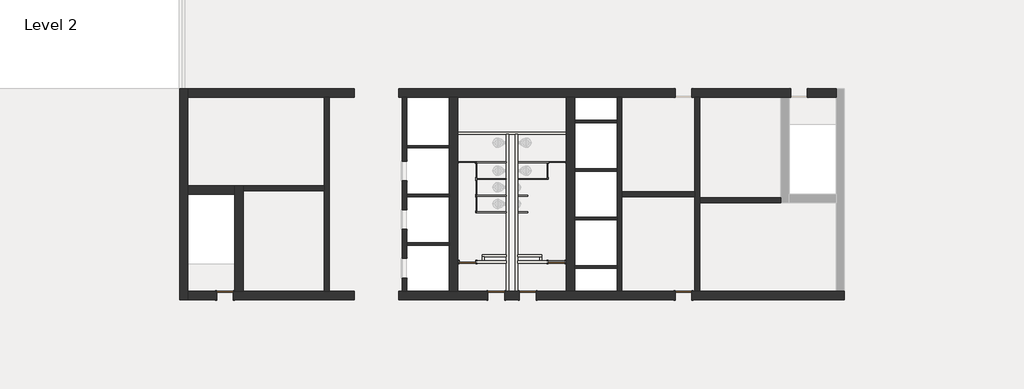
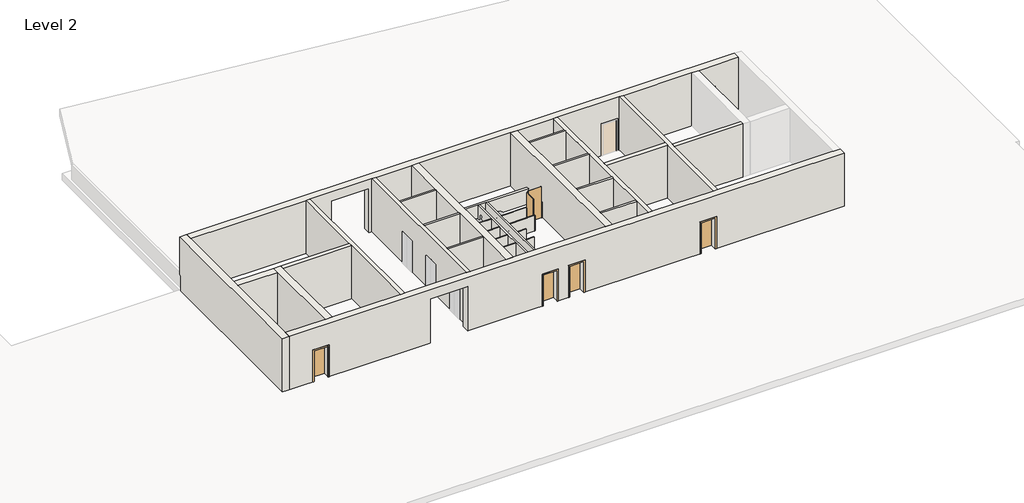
# One storey, part 1 of 6: 41 walls, 12 doors.
"""IFC4 building model written with IfcOpenShell, lengths in millimetres."""

from ifc_helpers import new_model, si_unit, frame, origin, place, context, project, spatial, polyline, outline, extrude, faceted_brep, transform, mapped, element, save
from components import door_3c99239a, door_aec9db07, door_a3eb833a, door_a1797ceb, toilet_partitions_2_10_0724d611, toilet_partitions_2_10_251e7a51, door_243abaaa, door_871a7840

model = new_model("IFC4")

# Units and contexts
model_context = context("Model", 3, world=origin())
ifc_project = project(units=[si_unit("LENGTHUNIT", "METRE", prefix="MILLI")], contexts=[model_context])

# Site, building, storey
site = spatial("IfcSite", under=ifc_project)
building = spatial("IfcBuilding", under=site)
storey = spatial("IfcBuildingStorey", under=building, Name="Level 2", Elevation=3657.6)

# Doors
placement = place(None, origin())
door_shape = door_3c99239a(model_context)
element("IfcDoor", 1, ObjectType="Single-Flush : 36\" x 84\"", at=placement, inside=storey, context=model_context, shape_type="MappedRepresentation", body=[
    mapped(door_shape, transform((-30700.0713641, -14594.8103492, 3657.6), x_axis=(1.0, 0.0, 0.0), y_axis=(0.0, 1.0, 0.0), z_axis=(0.0, 0.0, 1.0))),
])
element("IfcDoor", 2, ObjectType="Single-Flush : 36\" x 84\"", at=placement, inside=storey, context=model_context, shape_type="MappedRepresentation", body=[
    mapped(door_shape, transform((-5525.0427926, -14594.8103492, 3657.6), x_axis=(1.0, 0.0, 0.0), y_axis=(0.0, 1.0, 0.0), z_axis=(0.0, 0.0, 1.0))),
])
element("IfcDoor", 3, ObjectType="Single-Flush : 36\" x 84\"", at=placement, inside=storey, context=model_context, shape_type="MappedRepresentation", body=[
    mapped(door_shape, transform((-15804.7856498, -14594.8103492, 3657.6), x_axis=(1.0, 0.0, 0.0), y_axis=(0.0, 1.0, 0.0), z_axis=(0.0, 0.0, 1.0))),
])
door_2_shape = door_aec9db07(model_context)
element("IfcDoor", 4, ObjectType="Single-Flush : 36\" x 84\"", at=placement, inside=storey, context=model_context, shape_type="MappedRepresentation", body=[
    mapped(door_2_shape, transform((-14077.5856498, -14594.8103492, 3657.6), x_axis=(-1.0, 0.0, 0.0), y_axis=(0.0, -1.0, 0.0), z_axis=(0.0, 0.0, 1.0))),
])
door_3_shape = door_a3eb833a(model_context)
element("IfcDoor", 5, ObjectType="Single-Flush : 36\" x 84\"", at=placement, inside=storey, context=model_context, shape_type="MappedRepresentation", body=[
    mapped(door_3_shape, transform((-12487.8428559, -12753.3103492, 3657.6), x_axis=(1.0, 0.0, 0.0), y_axis=(0.0, 1.0, 0.0), z_axis=(0.0, 0.0, 1.0))),
])
door_4_shape = door_a1797ceb(model_context)
element("IfcDoor", 6, ObjectType="Single-Flush : 36\" x 84\"", at=placement, inside=storey, context=model_context, shape_type="MappedRepresentation", body=[
    mapped(door_4_shape, transform((-17394.5284437, -12753.3103492, 3657.6), x_axis=(-1.0, 0.0, 0.0), y_axis=(0.0, -1.0, 0.0), z_axis=(0.0, 0.0, 1.0))),
])
toilet_partitions_2_10_shape = toilet_partitions_2_10_0724d611(model_context)
element("IfcDoor", 7, ObjectType="toilet Partitions : 2'10", at=placement, inside=storey, context=model_context, shape_type="MappedRepresentation", body=[
    mapped(toilet_partitions_2_10_shape, transform((-12449.7428559, -7282.7853492, 3657.6), x_axis=(1.0, 0.0, 0.0), y_axis=(0.0, 1.0, 0.0), z_axis=(0.0, 0.0, 1.0))),
])
toilet_partitions_2_10_2_shape = toilet_partitions_2_10_251e7a51(model_context)
element("IfcDoor", 8, ObjectType="toilet Partitions : 2'10", at=placement, inside=storey, context=model_context, shape_type="MappedRepresentation", body=[
    mapped(toilet_partitions_2_10_2_shape, transform((-17432.6284437, -7282.7853492, 3657.6), x_axis=(-1.0, 0.0, 0.0), y_axis=(0.0, -1.0, 0.0), z_axis=(0.0, 0.0, 1.0))),
])
door_5_shape = door_243abaaa(model_context)
element("IfcDoor", 9, ObjectType="toilet Partitions : 2'5\"", at=placement, inside=storey, context=model_context, shape_type="MappedRepresentation", body=[
    mapped(door_5_shape, transform((-12985.3856498, -7739.9853492, 3657.6), x_axis=(0.0, -1.0, 0.0), y_axis=(1.0, 0.0, 0.0), z_axis=(0.0, 0.0, 1.0))),
])
door_6_shape = door_871a7840(model_context)
element("IfcDoor", 10, ObjectType="toilet Partitions : 2'5\"", at=placement, inside=storey, context=model_context, shape_type="MappedRepresentation", body=[
    mapped(door_6_shape, transform((-16896.9856498, -9568.7853492, 3657.6), x_axis=(0.0, -1.0, 0.0), y_axis=(1.0, 0.0, 0.0), z_axis=(0.0, 0.0, 1.0))),
])
element("IfcDoor", 11, ObjectType="toilet Partitions : 2'5\"", at=placement, inside=storey, context=model_context, shape_type="MappedRepresentation", body=[
    mapped(door_6_shape, transform((-16896.9856498, -7739.9853492, 3657.6), x_axis=(0.0, -1.0, 0.0), y_axis=(1.0, 0.0, 0.0), z_axis=(0.0, 0.0, 1.0))),
])
element("IfcDoor", 12, ObjectType="toilet Partitions : 2'5\"", at=placement, inside=storey, context=model_context, shape_type="MappedRepresentation", body=[
    mapped(door_6_shape, transform((-16896.9856498, -8654.3853492, 3657.6), x_axis=(0.0, -1.0, 0.0), y_axis=(1.0, 0.0, 0.0), z_axis=(0.0, 0.0, 1.0))),
])

# Walls
element("IfcWall", 13, ObjectType="Core-shaft 10\" Concrete", at=placement, inside=storey, context=model_context, shape_type="SweptSolid", body=[
    extrude(outline(polyline([(-14366.2103492, 7315.2), (-3698.2103492, 7315.2), (-3698.2103492, 3657.6), (-7222.4603492, 3657.6), (-7222.4603492, 5816.6), (-8301.9603492, 5816.6), (-8301.9603492, 3657.6), (-9889.4603492, 3657.6), (-9889.4603492, 5816.6), (-10968.9603492, 5816.6), (-10968.9603492, 3657.6), (-12556.4603492, 3657.6), (-12556.4603492, 5816.6), (-13635.9603492, 5816.6), (-13635.9603492, 3657.6), (-14366.2103492, 3657.6), (-14366.2103492, 7315.2)])), frame((-20979.1285069, 0.0, 0.0), z_axis=(1.0, 0.0, 0.0), x_axis=(0.0, 1.0, 0.0)), (0.0, 0.0, 1.0), 254.0),
])
element("IfcWall", 14, ObjectType="Core-shaft 10\" Concrete", at=placement, inside=storey, context=model_context, shape_type="Brep", body=[
    faceted_brep([(-24992.3285069, -14366.2103492, 3657.6), (-24992.3285069, -3698.2103492, 3657.6), (-24992.3285069, -3698.2103492, 7315.2), (-24992.3285069, -14366.2103492, 7315.2), (-25246.3285069, -14366.2103492, 3657.6), (-25246.3285069, -14366.2103492, 7315.2), (-25246.3285069, -8829.0103492, 7315.2), (-25246.3285069, -8575.0103492, 7315.2), (-25246.3285069, -3698.2103492, 7315.2), (-25246.3285069, -3698.2103492, 3657.6), (-25246.3285069, -8575.0103492, 3657.6), (-25246.3285069, -8829.0103492, 3657.6)], [[[0, 1, 2, 3]], [[4, 5, 6, 7, 8, 9, 10, 11]], [[1, 0, 4, 11, 10, 9]], [[3, 2, 8, 7, 6, 5]], [[0, 3, 5, 4]], [[2, 1, 9, 8]]]),
])
element("IfcWall", 15, ObjectType="Core-shaft 10\" Concrete", at=placement, inside=storey, context=model_context, shape_type="SweptSolid", body=[
    extrude(outline(polyline([(-25246.3285069, -8829.0103492), (-29709.4713641, -8829.0103492), (-29709.4713641, -8575.0103492), (-25246.3285069, -8575.0103492), (-25246.3285069, -8829.0103492)])), frame((0.0, 0.0, 3657.6), z_axis=(0.0, 0.0, 1.0), x_axis=(1.0, 0.0, 0.0)), (0.0, 0.0, 1.0), 3657.6),
])
element("IfcWall", 16, ObjectType="Core-shaft 10\" Concrete", at=placement, inside=storey, context=model_context, shape_type="SweptSolid", body=[
    extrude(outline(polyline([(-8903.2427926, -3698.2103492), (-8903.2427926, -14366.2103492), (-9157.2427926, -14366.2103492), (-9157.2427926, -3698.2103492), (-8903.2427926, -3698.2103492)])), frame((0.0, 0.0, 3657.6), z_axis=(0.0, 0.0, 1.0), x_axis=(1.0, 0.0, 0.0)), (0.0, 0.0, 1.0), 3657.6),
])
element("IfcWall", 17, ObjectType="Core-shaft 10\" Concrete", at=placement, inside=storey, context=model_context, shape_type="Brep", body=[
    faceted_brep([(-4636.0427926, -14366.2103492, 3657.6), (-4636.0427926, -9489.4103492, 3657.6), (-4636.0427926, -9235.4103492, 3657.6), (-4636.0427926, -3698.2103492, 3657.6), (-4636.0427926, -3698.2103492, 7315.2), (-4636.0427926, -9235.4103492, 7315.2), (-4636.0427926, -9489.4103492, 7315.2), (-4636.0427926, -14366.2103492, 7315.2), (-4890.0427926, -14366.2103492, 3657.6), (-4890.0427926, -14366.2103492, 7315.2), (-4890.0427926, -3698.2103492, 7315.2), (-4890.0427926, -3698.2103492, 3657.6)], [[[0, 1, 2, 3, 4, 5, 6, 7]], [[8, 9, 10, 11]], [[3, 2, 1, 0, 8, 11]], [[7, 6, 5, 4, 10, 9]], [[0, 7, 9, 8]], [[4, 3, 11, 10]]]),
])
element("IfcWall", 18, ObjectType="Core-shaft 10\" Concrete", at=placement, inside=storey, context=model_context, shape_type="SweptSolid", body=[
    extrude(outline(polyline([(-4636.0427926, -9235.4103492), (-172.8999355, -9235.4103492), (-172.8999355, -9489.4103492), (-4636.0427926, -9489.4103492), (-4636.0427926, -9235.4103492)])), frame((0.0, 0.0, 3657.6), z_axis=(0.0, 0.0, 1.0), x_axis=(1.0, 0.0, 0.0)), (0.0, 0.0, 1.0), 3657.6),
])
element("IfcWall", 19, ObjectType="Core-shaft 10\" Concrete", at=placement, inside=storey, context=model_context, shape_type="SweptSolid", body=[
    extrude(outline(polyline([(-8903.2427926, -8905.2103492), (-4890.0427926, -8905.2103492), (-4890.0427926, -9159.2103492), (-8903.2427926, -9159.2103492), (-8903.2427926, -8905.2103492)])), frame((0.0, 0.0, 3657.6), z_axis=(0.0, 0.0, 1.0), x_axis=(1.0, 0.0, 0.0)), (0.0, 0.0, 1.0), 3657.6),
])
element("IfcWall", 20, ObjectType="Core-shaft 18\" Concrete", at=placement, inside=storey, context=model_context, shape_type="Brep", body=[
    faceted_brep([(-14534.7856498, -14366.2103492, 5791.2), (-14534.7856498, -14366.2103492, 3657.6), (-15347.5856498, -14366.2103492, 3657.6), (-15347.5856498, -14366.2103492, 5791.2), (-16261.9856498, -14366.2103492, 5791.2), (-16261.9856498, -14366.2103492, 3657.6), (-17927.9284437, -14366.2103492, 3657.6), (-18385.1284437, -14366.2103492, 3657.6), (-20725.1285069, -14366.2103492, 3657.6), (-20979.1285069, -14366.2103492, 3657.6), (-21167.8142212, -14366.2103492, 3657.6), (-21167.8142212, -14366.2103492, 6705.6), (-23606.2142212, -14366.2103492, 6705.6), (-23606.2142212, -14366.2103492, 3657.6), (-24992.3285069, -14366.2103492, 3657.6), (-25246.3285069, -14366.2103492, 3657.6), (-29709.4713641, -14366.2103492, 3657.6), (-30166.6713641, -14366.2103492, 3657.6), (-30242.8713641, -14366.2103492, 3657.6), (-30242.8713641, -14366.2103492, 5791.2), (-31157.2713641, -14366.2103492, 5791.2), (-31157.2713641, -14366.2103492, 3657.6), (-32750.2142212, -14366.2103492, 3657.6), (-32750.2142212, -14366.2103492, 7315.2), (-30166.6713641, -14366.2103492, 7315.2), (-29709.4713641, -14366.2103492, 7315.2), (-25246.3285069, -14366.2103492, 7315.2), (-24992.3285069, -14366.2103492, 7315.2), (-20979.1285069, -14366.2103492, 7315.2), (-20725.1285069, -14366.2103492, 7315.2), (-18385.1284437, -14366.2103492, 7315.2), (-17927.9284437, -14366.2103492, 7315.2), (-11954.4428559, -14366.2103492, 7315.2), (-11497.2428559, -14366.2103492, 7315.2), (-9157.2427926, -14366.2103492, 7315.2), (-8903.2427926, -14366.2103492, 7315.2), (-4890.0427926, -14366.2103492, 7315.2), (-4636.0427926, -14366.2103492, 7315.2), (2867.8429217, -14366.2103492, 7315.2), (3325.0429217, -14366.2103492, 7315.2), (3325.0429217, -14366.2103492, 3657.6), (2867.8429217, -14366.2103492, 3657.6), (-4636.0427926, -14366.2103492, 3657.6), (-4890.0427926, -14366.2103492, 3657.6), (-5067.8427926, -14366.2103492, 3657.6), (-5067.8427926, -14366.2103492, 5791.2), (-5982.2427926, -14366.2103492, 5791.2), (-5982.2427926, -14366.2103492, 3657.6), (-8903.2427926, -14366.2103492, 3657.6), (-9157.2427926, -14366.2103492, 3657.6), (-11497.2428559, -14366.2103492, 3657.6), (-11954.4428559, -14366.2103492, 3657.6), (-13620.3856498, -14366.2103492, 3657.6), (-13620.3856498, -14366.2103492, 5791.2), (-15347.5856498, -14823.4103492, 3657.6), (-14534.7856498, -14823.4103492, 3657.6), (-14534.7856498, -14823.4103492, 5791.2), (-13620.3856498, -14823.4103492, 5791.2), (-13620.3856498, -14823.4103492, 3657.6), (-5982.2427926, -14823.4103492, 3657.6), (-5982.2427926, -14823.4103492, 5791.2), (-5067.8427926, -14823.4103492, 5791.2), (-5067.8427926, -14823.4103492, 3657.6), (3325.0429217, -14823.4103492, 3657.6), (3325.0429217, -14823.4103492, 7315.2), (-32750.2142212, -14823.4103492, 7315.2), (-32750.2142212, -14823.4103492, 3657.6), (-31157.2713641, -14823.4103492, 3657.6), (-31157.2713641, -14823.4103492, 5791.2), (-30242.8713641, -14823.4103492, 5791.2), (-30242.8713641, -14823.4103492, 3657.6), (-23606.2142212, -14823.4103492, 3657.6), (-23606.2142212, -14823.4103492, 6705.6), (-21167.8142212, -14823.4103492, 6705.6), (-21167.8142212, -14823.4103492, 3657.6), (-16261.9856498, -14823.4103492, 3657.6), (-16261.9856498, -14823.4103492, 5791.2), (-15347.5856498, -14823.4103492, 5791.2)], [[[0, 1, 2, 3, 4, 5, 6, 7, 8, 9, 10, 11, 12, 13, 14, 15, 16, 17, 18, 19, 20, 21, 22, 23, 24, 25, 26, 27, 28, 29, 30, 31, 32, 33, 34, 35, 36, 37, 38, 39, 40, 41, 42, 43, 44, 45, 46, 47, 48, 49, 50, 51, 52, 53]], [[54, 55, 56, 57, 58, 59, 60, 61, 62, 63, 64, 65, 66, 67, 68, 69, 70, 71, 72, 73, 74, 75, 76, 77]], [[67, 66, 22, 21]], [[71, 70, 18, 17, 16, 15, 14, 13]], [[63, 62, 44, 43, 42, 41, 40]], [[75, 74, 10, 9, 8, 7, 6, 5]], [[2, 1, 55, 54]], [[52, 51, 50, 49, 48, 47, 59, 58]], [[39, 38, 37, 36, 35, 34, 33, 32, 31, 30, 29, 28, 27, 26, 25, 24, 23, 65, 64]], [[11, 73, 72, 12]], [[73, 11, 10, 74]], [[12, 72, 71, 13]], [[19, 18, 70, 69]], [[20, 19, 69, 68]], [[21, 20, 68, 67]], [[45, 44, 62, 61]], [[46, 45, 61, 60]], [[47, 46, 60, 59]], [[40, 39, 64, 63]], [[23, 22, 66, 65]], [[3, 2, 54, 77]], [[4, 3, 77, 76]], [[5, 4, 76, 75]], [[56, 55, 1, 0]], [[57, 56, 0, 53]], [[58, 57, 53, 52]]]),
])
element("IfcWall", 21, ObjectType="Core-shaft 18\" Concrete", at=placement, inside=storey, context=model_context, shape_type="Brep", body=[
    faceted_brep([(-32750.2142212, -14823.4103492, 3657.6), (-32750.2142212, -14366.2103492, 3657.6), (-32750.2142212, -9032.2103492, 3657.6), (-32750.2142212, -8575.0103492, 3657.6), (-32750.2142212, -3698.2103492, 3657.6), (-32750.2142212, -3393.4103492, 3657.6), (-32750.2142212, -3393.4103492, 4724.4), (-32750.2142212, -3241.0103492, 4724.4), (-32750.2142212, -3241.0103492, 7315.2), (-32750.2142212, -3698.2103492, 7315.2), (-32750.2142212, -8575.0103492, 7315.2), (-32750.2142212, -9032.2103492, 7315.2), (-32750.2142212, -14366.2103492, 7315.2), (-32750.2142212, -14823.4103492, 7315.2), (-33207.4142212, -14823.4103492, 3657.6), (-33207.4142212, -14823.4103492, 7315.2), (-33207.4142212, -3241.0103492, 7315.2), (-33207.4142212, -3241.0103492, 4724.4), (-33207.4142212, -3393.4103492, 4724.4), (-33207.4142212, -3393.4103492, 3657.6), (-33207.4142212, -3698.2103492, 3657.6)], [[[0, 1, 2, 3, 4, 5, 6, 7, 8, 9, 10, 11, 12, 13]], [[14, 15, 16, 17, 18, 19, 20]], [[5, 4, 3, 2, 1, 0, 14, 20, 19]], [[13, 12, 11, 10, 9, 8, 16, 15]], [[0, 13, 15, 14]], [[6, 5, 19, 18]], [[17, 7, 6, 18]], [[8, 7, 17, 16]]]),
])
element("IfcWall", 22, ObjectType="Core-shaft 18\" Concrete", at=placement, inside=storey, context=model_context, shape_type="SweptSolid", body=[
    extrude(outline(polyline([(-18385.1284437, -14366.2103492), (-18385.1284437, -3698.2103492), (-17927.9284437, -3698.2103492), (-17927.9284437, -14366.2103492), (-18385.1284437, -14366.2103492)])), frame((0.0, 0.0, 3657.6), z_axis=(0.0, 0.0, 1.0), x_axis=(1.0, 0.0, 0.0)), (0.0, 0.0, 1.0), 3657.6),
])
element("IfcWall", 23, ObjectType="Core-shaft 18\" Concrete", at=placement, inside=storey, context=model_context, shape_type="Brep", body=[
    faceted_brep([(-29709.4713641, -14366.2103492, 3657.6), (-29709.4713641, -8829.0103492, 3657.6), (-29709.4713641, -8575.0103492, 3657.6), (-29709.4713641, -8575.0103492, 7315.2), (-29709.4713641, -8829.0103492, 7315.2), (-29709.4713641, -14366.2103492, 7315.2), (-30166.6713641, -14366.2103492, 3657.6), (-30166.6713641, -14366.2103492, 7315.2), (-30166.6713641, -9032.2103492, 7315.2), (-30166.6713641, -8575.0103492, 7315.2), (-30166.6713641, -8575.0103492, 3657.6), (-30166.6713641, -9032.2103492, 3657.6)], [[[0, 1, 2, 3, 4, 5]], [[6, 7, 8, 9, 10, 11]], [[2, 1, 0, 6, 11, 10]], [[5, 4, 3, 9, 8, 7]], [[3, 2, 10, 9]], [[0, 5, 7, 6]]]),
])
element("IfcWall", 24, ObjectType="Core-shaft 18\" Concrete", at=placement, inside=storey, context=model_context, shape_type="SweptSolid", body=[
    extrude(outline(polyline([(-32750.2142212, -8575.0103492), (-30166.6713641, -8575.0103492), (-30166.6713641, -9032.2103492), (-32750.2142212, -9032.2103492), (-32750.2142212, -8575.0103492)])), frame((0.0, 0.0, 3657.6), z_axis=(0.0, 0.0, 1.0), x_axis=(1.0, 0.0, 0.0)), (0.0, 0.0, 1.0), 3657.6),
])
element("IfcWall", 25, ObjectType="Core-shaft 18\" Concrete", at=placement, inside=storey, context=model_context, shape_type="SweptSolid", body=[
    extrude(outline(polyline([(-11954.4428559, -14366.2103492), (-11954.4428559, -3698.2103492), (-11497.2428559, -3698.2103492), (-11497.2428559, -14366.2103492), (-11954.4428559, -14366.2103492)])), frame((0.0, 0.0, 3657.6), z_axis=(0.0, 0.0, 1.0), x_axis=(1.0, 0.0, 0.0)), (0.0, 0.0, 1.0), 3657.6),
])
element("IfcWall", 26, ObjectType="Core-shaft 18\" Concrete", at=placement, inside=storey, context=model_context, shape_type="Brep", body=[
    faceted_brep([(-5067.8427926, -3698.2103492, 5791.2), (-5067.8427926, -3698.2103492, 3657.6), (-4890.0427926, -3698.2103492, 3657.6), (-4636.0427926, -3698.2103492, 3657.6), (-172.8999355, -3698.2103492, 3657.6), (284.3000645, -3698.2103492, 3657.6), (360.5000645, -3698.2103492, 3657.6), (360.5000645, -3698.2103492, 5791.2), (1274.9000645, -3698.2103492, 5791.2), (1274.9000645, -3698.2103492, 3657.6), (2867.8429217, -3698.2103492, 3657.6), (2867.8429217, -3698.2103492, 7315.2), (284.3000645, -3698.2103492, 7315.2), (-172.8999355, -3698.2103492, 7315.2), (-4636.0427926, -3698.2103492, 7315.2), (-4890.0427926, -3698.2103492, 7315.2), (-8903.2427926, -3698.2103492, 7315.2), (-9157.2427926, -3698.2103492, 7315.2), (-11497.2428559, -3698.2103492, 7315.2), (-11954.4428559, -3698.2103492, 7315.2), (-17927.9284437, -3698.2103492, 7315.2), (-18385.1284437, -3698.2103492, 7315.2), (-20725.1285069, -3698.2103492, 7315.2), (-20979.1285069, -3698.2103492, 7315.2), (-24992.3285069, -3698.2103492, 7315.2), (-25246.3285069, -3698.2103492, 7315.2), (-32750.2142212, -3698.2103492, 7315.2), (-32750.2142212, -3698.2103492, 3657.6), (-25246.3285069, -3698.2103492, 3657.6), (-24992.3285069, -3698.2103492, 3657.6), (-23606.2142212, -3698.2103492, 3657.6), (-23606.2142212, -3698.2103492, 6705.6), (-21167.8142212, -3698.2103492, 6705.6), (-21167.8142212, -3698.2103492, 3657.6), (-20979.1285069, -3698.2103492, 3657.6), (-20725.1285069, -3698.2103492, 3657.6), (-18385.1284437, -3698.2103492, 3657.6), (-17927.9284437, -3698.2103492, 3657.6), (-11954.4428559, -3698.2103492, 3657.6), (-11497.2428559, -3698.2103492, 3657.6), (-9157.2427926, -3698.2103492, 3657.6), (-8903.2427926, -3698.2103492, 3657.6), (-5982.2427926, -3698.2103492, 3657.6), (-5982.2427926, -3698.2103492, 5791.2), (360.5000645, -3241.0103492, 3657.6), (-5067.8427926, -3241.0103492, 3657.6), (-5067.8427926, -3241.0103492, 5791.2), (-5982.2427926, -3241.0103492, 5791.2), (-5982.2427926, -3241.0103492, 3657.6), (-21167.8142212, -3241.0103492, 3657.6), (-21167.8142212, -3241.0103492, 6705.6), (-23606.2142212, -3241.0103492, 6705.6), (-23606.2142212, -3241.0103492, 3657.6), (-32750.2142212, -3241.0103492, 3657.6), (-32750.2142212, -3241.0103492, 4724.4), (-32750.2142212, -3241.0103492, 7315.2), (2867.8429217, -3241.0103492, 7315.2), (2867.8429217, -3241.0103492, 3657.6), (1274.9000645, -3241.0103492, 3657.6), (1274.9000645, -3241.0103492, 5791.2), (360.5000645, -3241.0103492, 5791.2), (-32750.2142212, -3393.4103492, 3657.6)], [[[0, 1, 2, 3, 4, 5, 6, 7, 8, 9, 10, 11, 12, 13, 14, 15, 16, 17, 18, 19, 20, 21, 22, 23, 24, 25, 26, 27, 28, 29, 30, 31, 32, 33, 34, 35, 36, 37, 38, 39, 40, 41, 42, 43]], [[44, 45, 46, 47, 48, 49, 50, 51, 52, 53, 54, 55, 56, 57, 58, 59, 60]], [[58, 57, 10, 9]], [[27, 61, 53, 52, 30, 29, 28]], [[42, 41, 40, 39, 38, 37, 36, 35, 34, 33, 49, 48]], [[6, 5, 4, 3, 2, 1, 45, 44]], [[26, 25, 24, 23, 22, 21, 20, 19, 18, 17, 16, 15, 14, 13, 12, 11, 56, 55]], [[31, 51, 50, 32]], [[51, 31, 30, 52]], [[32, 50, 49, 33]], [[7, 6, 44, 60]], [[8, 7, 60, 59]], [[9, 8, 59, 58]], [[46, 45, 1, 0]], [[47, 46, 0, 43]], [[48, 47, 43, 42]], [[11, 10, 57, 56]], [[26, 55, 54, 53, 61, 27]]]),
])
element("IfcWall", 27, ObjectType="Generic - 5\"", at=placement, inside=storey, context=model_context, shape_type="SweptSolid", body=[
    extrude(outline(polyline([(-18385.1284437, -11826.2103492), (-20725.1285069, -11826.2103492), (-20725.1285069, -11699.2103492), (-18385.1284437, -11699.2103492), (-18385.1284437, -11826.2103492)])), frame((0.0, 0.0, 3657.6), z_axis=(0.0, 0.0, 1.0), x_axis=(1.0, 0.0, 0.0)), (0.0, 0.0, 1.0), 3657.6),
])
element("IfcWall", 28, ObjectType="Generic - 5\"", at=placement, inside=storey, context=model_context, shape_type="SweptSolid", body=[
    extrude(outline(polyline([(-18385.1284437, -9159.2103492), (-20725.1285069, -9159.2103492), (-20725.1285069, -9032.2103492), (-18385.1284437, -9032.2103492), (-18385.1284437, -9159.2103492)])), frame((0.0, 0.0, 3657.6), z_axis=(0.0, 0.0, 1.0), x_axis=(1.0, 0.0, 0.0)), (0.0, 0.0, 1.0), 3657.6),
])
element("IfcWall", 29, ObjectType="Generic - 5\"", at=placement, inside=storey, context=model_context, shape_type="SweptSolid", body=[
    extrude(outline(polyline([(-18385.1284437, -6492.2103492), (-20725.1285069, -6492.2103492), (-20725.1285069, -6365.2103492), (-18385.1284437, -6365.2103492), (-18385.1284437, -6492.2103492)])), frame((0.0, 0.0, 3657.6), z_axis=(0.0, 0.0, 1.0), x_axis=(1.0, 0.0, 0.0)), (0.0, 0.0, 1.0), 3657.6),
])
element("IfcWall", 30, ObjectType="Generic - 5\"", at=placement, inside=storey, context=model_context, shape_type="SweptSolid", body=[
    extrude(outline(polyline([(-11497.2428559, -10302.2103492), (-9157.2427926, -10302.2103492), (-9157.2427926, -10429.2103492), (-11497.2428559, -10429.2103492), (-11497.2428559, -10302.2103492)])), frame((0.0, 0.0, 3657.6), z_axis=(0.0, 0.0, 1.0), x_axis=(1.0, 0.0, 0.0)), (0.0, 0.0, 1.0), 3657.6),
])
element("IfcWall", 31, ObjectType="Generic - 5\"", at=placement, inside=storey, context=model_context, shape_type="SweptSolid", body=[
    extrude(outline(polyline([(-11497.2428559, -7635.2103492), (-9157.2427926, -7635.2103492), (-9157.2427926, -7762.2103492), (-11497.2428559, -7762.2103492), (-11497.2428559, -7635.2103492)])), frame((0.0, 0.0, 3657.6), z_axis=(0.0, 0.0, 1.0), x_axis=(1.0, 0.0, 0.0)), (0.0, 0.0, 1.0), 3657.6),
])
element("IfcWall", 32, ObjectType="Generic - 5\"", at=placement, inside=storey, context=model_context, shape_type="SweptSolid", body=[
    extrude(outline(polyline([(-11497.2428559, -4968.2103492), (-9157.2427926, -4968.2103492), (-9157.2427926, -5095.2103492), (-11497.2428559, -5095.2103492), (-11497.2428559, -4968.2103492)])), frame((0.0, 0.0, 3657.6), z_axis=(0.0, 0.0, 1.0), x_axis=(1.0, 0.0, 0.0)), (0.0, 0.0, 1.0), 3657.6),
])
element("IfcWall", 33, ObjectType="Generic - 5\"", at=placement, inside=storey, context=model_context, shape_type="SweptSolid", body=[
    extrude(outline(polyline([(-11497.2428559, -12969.2103492), (-9157.2427926, -12969.2103492), (-9157.2427926, -13096.2103492), (-11497.2428559, -13096.2103492), (-11497.2428559, -12969.2103492)])), frame((0.0, 0.0, 3657.6), z_axis=(0.0, 0.0, 1.0), x_axis=(1.0, 0.0, 0.0)), (0.0, 0.0, 1.0), 3657.6),
])
element("IfcWall", 34, ObjectType="Interior - Generic - 5\"", at=placement, inside=storey, context=model_context, shape_type="Brep", body=[
    faceted_brep([(-15131.6856498, -14366.2103492, 3657.6), (-15131.6856498, -5742.9103492, 3657.6), (-15131.6856498, -5742.9103492, 4724.4), (-15131.6856498, -14366.2103492, 4724.4), (-15258.6856498, -14366.2103492, 3657.6), (-15258.6856498, -14366.2103492, 4724.4), (-15258.6856498, -12816.8103492, 4724.4), (-15258.6856498, -12689.8103492, 4724.4), (-15258.6856498, -12480.2603492, 4724.4), (-15258.6856498, -12353.2603492, 4724.4), (-15258.6856498, -10051.3853492, 4724.4), (-15258.6856498, -10000.5853492, 4724.4), (-15258.6856498, -9136.9853492, 4724.4), (-15258.6856498, -9086.1853492, 4724.4), (-15258.6856498, -8222.5853492, 4724.4), (-15258.6856498, -8171.7853492, 4724.4), (-15258.6856498, -7308.1853492, 4724.4), (-15258.6856498, -7257.3853492, 4724.4), (-15258.6856498, -5742.9103492, 4724.4), (-15258.6856498, -5742.9103492, 3657.6), (-15258.6856498, -7257.3853492, 3657.6), (-15258.6856498, -7308.1853492, 3657.6), (-15258.6856498, -8171.7853492, 3657.6), (-15258.6856498, -8222.5853492, 3657.6), (-15258.6856498, -9086.1853492, 3657.6), (-15258.6856498, -9136.9853492, 3657.6), (-15258.6856498, -10000.5853492, 3657.6), (-15258.6856498, -10051.3853492, 3657.6), (-15258.6856498, -12353.2603492, 3657.6), (-15258.6856498, -12480.2603492, 3657.6), (-15258.6856498, -12689.8103492, 3657.6), (-15258.6856498, -12816.8103492, 3657.6)], [[[0, 1, 2, 3]], [[4, 5, 6, 7, 8, 9, 10, 11, 12, 13, 14, 15, 16, 17, 18, 19, 20, 21, 22, 23, 24, 25, 26, 27, 28, 29, 30, 31]], [[1, 0, 4, 31, 30, 29, 28, 27, 26, 25, 24, 23, 22, 21, 20, 19]], [[3, 2, 18, 17, 16, 15, 14, 13, 12, 11, 10, 9, 8, 7, 6, 5]], [[0, 3, 5, 4]], [[2, 1, 19, 18]]]),
])
element("IfcWall", 35, ObjectType="Interior - Generic - 5\"", at=placement, inside=storey, context=model_context, shape_type="Brep", body=[
    faceted_brep([(-14623.6856498, -14366.2103492, 3657.6), (-14623.6856498, -12816.8103492, 3657.6), (-14623.6856498, -12689.8103492, 3657.6), (-14623.6856498, -12480.2603492, 3657.6), (-14623.6856498, -12353.2603492, 3657.6), (-14623.6856498, -10051.3853492, 3657.6), (-14623.6856498, -10000.5853492, 3657.6), (-14623.6856498, -9136.9853492, 3657.6), (-14623.6856498, -9086.1853492, 3657.6), (-14623.6856498, -8222.5853492, 3657.6), (-14623.6856498, -8171.7853492, 3657.6), (-14623.6856498, -7308.1853492, 3657.6), (-14623.6856498, -7257.3853492, 3657.6), (-14623.6856498, -5742.9103492, 3657.6), (-14623.6856498, -5742.9103492, 4724.4), (-14623.6856498, -7257.3853492, 4724.4), (-14623.6856498, -7308.1853492, 4724.4), (-14623.6856498, -8171.7853492, 4724.4), (-14623.6856498, -8222.5853492, 4724.4), (-14623.6856498, -9086.1853492, 4724.4), (-14623.6856498, -9136.9853492, 4724.4), (-14623.6856498, -10000.5853492, 4724.4), (-14623.6856498, -10051.3853492, 4724.4), (-14623.6856498, -12353.2603492, 4724.4), (-14623.6856498, -12480.2603492, 4724.4), (-14623.6856498, -12689.8103492, 4724.4), (-14623.6856498, -12816.8103492, 4724.4), (-14623.6856498, -14366.2103492, 4724.4), (-14750.6856498, -14366.2103492, 3657.6), (-14750.6856498, -14366.2103492, 4724.4), (-14750.6856498, -5742.9103492, 4724.4), (-14750.6856498, -5742.9103492, 3657.6)], [[[0, 1, 2, 3, 4, 5, 6, 7, 8, 9, 10, 11, 12, 13, 14, 15, 16, 17, 18, 19, 20, 21, 22, 23, 24, 25, 26, 27]], [[28, 29, 30, 31]], [[13, 12, 11, 10, 9, 8, 7, 6, 5, 4, 3, 2, 1, 0, 28, 31]], [[27, 26, 25, 24, 23, 22, 21, 20, 19, 18, 17, 16, 15, 14, 30, 29]], [[0, 27, 29, 28]], [[14, 13, 31, 30]]]),
])
element("IfcWall", 36, ObjectType="Interior - Generic - 5\"", at=placement, inside=storey, context=model_context, shape_type="Brep", body=[
    faceted_brep([(-17927.9284437, -5742.9103492, 3657.6), (-15258.6856498, -5742.9103492, 3657.6), (-15131.6856498, -5742.9103492, 3657.6), (-14750.6856498, -5742.9103492, 3657.6), (-14623.6856498, -5742.9103492, 3657.6), (-11954.4428559, -5742.9103492, 3657.6), (-11954.4428559, -5742.9103492, 4724.4), (-14623.6856498, -5742.9103492, 4724.4), (-14750.6856498, -5742.9103492, 4724.4), (-15131.6856498, -5742.9103492, 4724.4), (-15258.6856498, -5742.9103492, 4724.4), (-17927.9284437, -5742.9103492, 4724.4), (-17927.9284437, -5615.9103492, 3657.6), (-17927.9284437, -5615.9103492, 4724.4), (-11954.4428559, -5615.9103492, 4724.4), (-11954.4428559, -5615.9103492, 3657.6)], [[[0, 1, 2, 3, 4, 5, 6, 7, 8, 9, 10, 11]], [[12, 13, 14, 15]], [[5, 4, 3, 2, 1, 0, 12, 15]], [[11, 10, 9, 8, 7, 6, 14, 13]], [[0, 11, 13, 12]], [[6, 5, 15, 14]]]),
])
element("IfcWall", 37, ObjectType="Interior - Generic - 5\"", at=placement, inside=storey, context=model_context, shape_type="Brep", body=[
    faceted_brep([(-14623.6856498, -12816.8103492, 3657.6), (-11954.4428559, -12816.8103492, 3657.6), (-11954.4428559, -12816.8103492, 4724.4), (-14623.6856498, -12816.8103492, 4724.4), (-14623.6856498, -12689.8103492, 3657.6), (-14623.6856498, -12689.8103492, 4724.4), (-13429.8856498, -12689.8103492, 4724.4), (-13302.8856498, -12689.8103492, 4724.4), (-11954.4428559, -12689.8103492, 4724.4), (-11954.4428559, -12689.8103492, 3657.6), (-13302.8856498, -12689.8103492, 3657.6), (-13429.8856498, -12689.8103492, 3657.6)], [[[0, 1, 2, 3]], [[4, 5, 6, 7, 8, 9, 10, 11]], [[1, 0, 4, 11, 10, 9]], [[3, 2, 8, 7, 6, 5]], [[0, 3, 5, 4]], [[2, 1, 9, 8]]]),
])
element("IfcWall", 38, ObjectType="Interior - Generic - 5\"", at=placement, inside=storey, context=model_context, shape_type="Brep", body=[
    faceted_brep([(-17927.9284437, -12689.8103492, 3657.6), (-17927.9284437, -12689.8103492, 4724.4), (-17851.7284437, -12689.8103492, 4724.4), (-17851.7284437, -12689.8103492, 3657.6), (-17927.9284437, -12816.8103492, 4724.4), (-17927.9284437, -12816.8103492, 3657.6), (-17851.7284437, -12816.8103492, 3657.6), (-17851.7284437, -12816.8103492, 4724.4)], [[[0, 1, 2, 3]], [[4, 5, 6, 7]], [[5, 0, 3, 6]], [[1, 4, 7, 2]], [[3, 2, 7, 6]], [[1, 0, 5, 4]]]),
    faceted_brep([(-15258.6856498, -12689.8103492, 4724.4), (-15258.6856498, -12689.8103492, 3657.6), (-16452.4856498, -12689.8103492, 3657.6), (-16579.4856498, -12689.8103492, 3657.6), (-16937.3284437, -12689.8103492, 3657.6), (-16937.3284437, -12689.8103492, 4724.4), (-16579.4856498, -12689.8103492, 4724.4), (-16452.4856498, -12689.8103492, 4724.4), (-15258.6856498, -12816.8103492, 3657.6), (-15258.6856498, -12816.8103492, 4724.4), (-16937.3284437, -12816.8103492, 4724.4), (-16937.3284437, -12816.8103492, 3657.6)], [[[0, 1, 2, 3, 4, 5, 6, 7]], [[8, 9, 10, 11]], [[1, 8, 11, 4, 3, 2]], [[9, 0, 7, 6, 5, 10]], [[5, 4, 11, 10]], [[1, 0, 9, 8]]]),
])
element("IfcWall", 39, ObjectType="Interior - Generic - 5\"", at=placement, inside=storey, context=model_context, shape_type="Brep", body=[
    faceted_brep([(-15258.6856498, -12353.2603492, 3657.6), (-16579.4856498, -12353.2603492, 3657.6), (-16579.4856498, -12353.2603492, 4724.4), (-15258.6856498, -12353.2603492, 4724.4), (-15258.6856498, -12480.2603492, 3657.6), (-15258.6856498, -12480.2603492, 4724.4), (-16452.4856498, -12480.2603492, 4724.4), (-16579.4856498, -12480.2603492, 4724.4), (-16579.4856498, -12480.2603492, 3657.6), (-16452.4856498, -12480.2603492, 3657.6)], [[[0, 1, 2, 3]], [[4, 5, 6, 7, 8, 9]], [[1, 0, 4, 9, 8]], [[3, 2, 7, 6, 5]], [[2, 1, 8, 7]], [[0, 3, 5, 4]]]),
])
element("IfcWall", 40, ObjectType="Interior - Generic - 5\"", at=placement, inside=storey, context=model_context, shape_type="SweptSolid", body=[
    extrude(outline(polyline([(-16579.4856498, -12689.8103492), (-16579.4856498, -12480.2603492), (-16452.4856498, -12480.2603492), (-16452.4856498, -12689.8103492), (-16579.4856498, -12689.8103492)])), frame((0.0, 0.0, 3657.6), z_axis=(0.0, 0.0, 1.0), x_axis=(1.0, 0.0, 0.0)), (0.0, 0.0, 1.0), 1066.8),
])
element("IfcWall", 41, ObjectType="Interior - Generic - 5\"", at=placement, inside=storey, context=model_context, shape_type="Brep", body=[
    faceted_brep([(-11954.4428559, -12816.8103492, 3657.6), (-11954.4428559, -12816.8103492, 4724.4), (-12030.6428559, -12816.8103492, 4724.4), (-12030.6428559, -12816.8103492, 3657.6), (-11954.4428559, -12689.8103492, 4724.4), (-11954.4428559, -12689.8103492, 3657.6), (-12030.6428559, -12689.8103492, 3657.6), (-12030.6428559, -12689.8103492, 4724.4)], [[[0, 1, 2, 3]], [[4, 5, 6, 7]], [[5, 0, 3, 6]], [[1, 4, 7, 2]], [[3, 2, 7, 6]], [[1, 0, 5, 4]]]),
    faceted_brep([(-14623.6856498, -12816.8103492, 4724.4), (-14623.6856498, -12816.8103492, 3657.6), (-12945.0428559, -12816.8103492, 3657.6), (-12945.0428559, -12816.8103492, 4724.4), (-14623.6856498, -12689.8103492, 3657.6), (-14623.6856498, -12689.8103492, 4724.4), (-13429.8856498, -12689.8103492, 4724.4), (-13302.8856498, -12689.8103492, 4724.4), (-12945.0428559, -12689.8103492, 4724.4), (-12945.0428559, -12689.8103492, 3657.6), (-13302.8856498, -12689.8103492, 3657.6), (-13429.8856498, -12689.8103492, 3657.6)], [[[0, 1, 2, 3]], [[4, 5, 6, 7, 8, 9, 10, 11]], [[1, 4, 11, 10, 9, 2]], [[5, 0, 3, 8, 7, 6]], [[3, 2, 9, 8]], [[1, 0, 5, 4]]]),
])
element("IfcWall", 42, ObjectType="Interior - Generic - 5\"", at=placement, inside=storey, context=model_context, shape_type="Brep", body=[
    faceted_brep([(-14623.6856498, -12480.2603492, 3657.6), (-13429.8856498, -12480.2603492, 3657.6), (-13302.8856498, -12480.2603492, 3657.6), (-13302.8856498, -12480.2603492, 4724.4), (-13429.8856498, -12480.2603492, 4724.4), (-14623.6856498, -12480.2603492, 4724.4), (-14623.6856498, -12353.2603492, 3657.6), (-14623.6856498, -12353.2603492, 4724.4), (-13302.8856498, -12353.2603492, 4724.4), (-13302.8856498, -12353.2603492, 3657.6)], [[[0, 1, 2, 3, 4, 5]], [[6, 7, 8, 9]], [[2, 1, 0, 6, 9]], [[5, 4, 3, 8, 7]], [[3, 2, 9, 8]], [[0, 5, 7, 6]]]),
])
element("IfcWall", 43, ObjectType="Interior - Generic - 5\"", at=placement, inside=storey, context=model_context, shape_type="SweptSolid", body=[
    extrude(outline(polyline([(-13429.8856498, -12689.8103492), (-13429.8856498, -12480.2603492), (-13302.8856498, -12480.2603492), (-13302.8856498, -12689.8103492), (-13429.8856498, -12689.8103492)])), frame((0.0, 0.0, 3657.6), z_axis=(0.0, 0.0, 1.0), x_axis=(1.0, 0.0, 0.0)), (0.0, 0.0, 1.0), 1066.8),
])
element("IfcWall", 44, ObjectType="Toilet Partition", at=placement, inside=storey, context=model_context, shape_type="Brep", body=[
    faceted_brep([(-16871.5856498, -7308.1853492, 3657.6), (-16871.5856498, -7308.1853492, 4724.4), (-16871.5856498, -7371.6853492, 4724.4), (-16871.5856498, -7371.6853492, 3657.6), (-16922.3856498, -7308.1853492, 4724.4), (-16922.3856498, -7308.1853492, 3657.6), (-16922.3856498, -7371.6853492, 3657.6), (-16922.3856498, -7371.6853492, 4724.4)], [[[0, 1, 2, 3]], [[4, 5, 6, 7]], [[5, 0, 3, 6]], [[1, 4, 7, 2]], [[1, 0, 5, 4]], [[3, 2, 7, 6]]]),
    faceted_brep([(-16871.5856498, -9937.0853492, 3657.6), (-16871.5856498, -9937.0853492, 4724.4), (-16871.5856498, -10000.5853492, 4724.4), (-16871.5856498, -10051.3853492, 4724.4), (-16871.5856498, -10051.3853492, 3657.6), (-16871.5856498, -10000.5853492, 3657.6), (-16922.3856498, -9937.0853492, 4724.4), (-16922.3856498, -9937.0853492, 3657.6), (-16922.3856498, -10051.3853492, 3657.6), (-16922.3856498, -10051.3853492, 4724.4)], [[[0, 1, 2, 3, 4, 5]], [[6, 7, 8, 9]], [[7, 0, 5, 4, 8]], [[1, 6, 9, 3, 2]], [[1, 0, 7, 6]], [[4, 3, 9, 8]]]),
    faceted_brep([(-16871.5856498, -9200.4853492, 4724.4), (-16871.5856498, -9200.4853492, 3657.6), (-16871.5856498, -9136.9853492, 3657.6), (-16871.5856498, -9086.1853492, 3657.6), (-16871.5856498, -9022.6853492, 3657.6), (-16871.5856498, -9022.6853492, 4724.4), (-16871.5856498, -9086.1853492, 4724.4), (-16871.5856498, -9136.9853492, 4724.4), (-16922.3856498, -9200.4853492, 3657.6), (-16922.3856498, -9200.4853492, 4724.4), (-16922.3856498, -9022.6853492, 4724.4), (-16922.3856498, -9022.6853492, 3657.6)], [[[0, 1, 2, 3, 4, 5, 6, 7]], [[8, 9, 10, 11]], [[1, 8, 11, 4, 3, 2]], [[9, 0, 7, 6, 5, 10]], [[1, 0, 9, 8]], [[5, 4, 11, 10]]]),
    faceted_brep([(-16871.5856498, -8108.2853492, 3657.6), (-16871.5856498, -8108.2853492, 4724.4), (-16871.5856498, -8171.7853492, 4724.4), (-16871.5856498, -8222.5853492, 4724.4), (-16871.5856498, -8286.0853492, 4724.4), (-16871.5856498, -8286.0853492, 3657.6), (-16871.5856498, -8222.5853492, 3657.6), (-16871.5856498, -8171.7853492, 3657.6), (-16922.3856498, -8108.2853492, 4724.4), (-16922.3856498, -8108.2853492, 3657.6), (-16922.3856498, -8286.0853492, 3657.6), (-16922.3856498, -8286.0853492, 4724.4)], [[[0, 1, 2, 3, 4, 5, 6, 7]], [[8, 9, 10, 11]], [[9, 0, 7, 6, 5, 10]], [[1, 8, 11, 4, 3, 2]], [[1, 0, 9, 8]], [[5, 4, 11, 10]]]),
])
element("IfcWall", 45, ObjectType="Toilet Partition", at=placement, inside=storey, context=model_context, shape_type="Brep", body=[
    faceted_brep([(-17927.9284437, -7257.3853492, 3657.6), (-17927.9284437, -7257.3853492, 4724.4), (-17864.4284437, -7257.3853492, 4724.4), (-17864.4284437, -7257.3853492, 3657.6), (-17927.9284437, -7308.1853492, 4724.4), (-17927.9284437, -7308.1853492, 3657.6), (-17864.4284437, -7308.1853492, 3657.6), (-17864.4284437, -7308.1853492, 4724.4)], [[[0, 1, 2, 3]], [[4, 5, 6, 7]], [[5, 0, 3, 6]], [[1, 4, 7, 2]], [[3, 2, 7, 6]], [[1, 0, 5, 4]]]),
    faceted_brep([(-15258.6856498, -7257.3853492, 4724.4), (-15258.6856498, -7257.3853492, 3657.6), (-17000.8284437, -7257.3853492, 3657.6), (-17000.8284437, -7257.3853492, 4724.4), (-15258.6856498, -7308.1853492, 3657.6), (-15258.6856498, -7308.1853492, 4724.4), (-16871.5856498, -7308.1853492, 4724.4), (-16922.3856498, -7308.1853492, 4724.4), (-17000.8284437, -7308.1853492, 4724.4), (-17000.8284437, -7308.1853492, 3657.6), (-16922.3856498, -7308.1853492, 3657.6), (-16871.5856498, -7308.1853492, 3657.6)], [[[0, 1, 2, 3]], [[4, 5, 6, 7, 8, 9, 10, 11]], [[1, 4, 11, 10, 9, 2]], [[5, 0, 3, 8, 7, 6]], [[3, 2, 9, 8]], [[1, 0, 5, 4]]]),
])
element("IfcWall", 46, ObjectType="Toilet Partition", at=placement, inside=storey, context=model_context, shape_type="SweptSolid", body=[
    extrude(outline(polyline([(-16871.5856498, -10000.5853492), (-15258.6856498, -10000.5853492), (-15258.6856498, -10051.3853492), (-16871.5856498, -10051.3853492), (-16871.5856498, -10000.5853492)])), frame((0.0, 0.0, 3657.6), z_axis=(0.0, 0.0, 1.0), x_axis=(1.0, 0.0, 0.0)), (0.0, 0.0, 1.0), 1066.8),
])
element("IfcWall", 47, ObjectType="Toilet Partition", at=placement, inside=storey, context=model_context, shape_type="SweptSolid", body=[
    extrude(outline(polyline([(-16871.5856498, -8171.7853492), (-15258.6856498, -8171.7853492), (-15258.6856498, -8222.5853492), (-16871.5856498, -8222.5853492), (-16871.5856498, -8171.7853492)])), frame((0.0, 0.0, 3657.6), z_axis=(0.0, 0.0, 1.0), x_axis=(1.0, 0.0, 0.0)), (0.0, 0.0, 1.0), 1066.8),
])
element("IfcWall", 48, ObjectType="Toilet Partition", at=placement, inside=storey, context=model_context, shape_type="Brep", body=[
    faceted_brep([(-12959.9856498, -7308.1853492, 3657.6), (-12959.9856498, -7308.1853492, 4724.4), (-12959.9856498, -7371.6853492, 4724.4), (-12959.9856498, -7371.6853492, 3657.6), (-13010.7856498, -7308.1853492, 4724.4), (-13010.7856498, -7308.1853492, 3657.6), (-13010.7856498, -7371.6853492, 3657.6), (-13010.7856498, -7371.6853492, 4724.4)], [[[0, 1, 2, 3]], [[4, 5, 6, 7]], [[5, 0, 3, 6]], [[1, 4, 7, 2]], [[1, 0, 5, 4]], [[3, 2, 7, 6]]]),
    faceted_brep([(-12959.9856498, -8222.5853492, 4724.4), (-12959.9856498, -8222.5853492, 3657.6), (-12959.9856498, -8108.2853492, 3657.6), (-12959.9856498, -8108.2853492, 4724.4), (-13010.7856498, -8222.5853492, 3657.6), (-13010.7856498, -8222.5853492, 4724.4), (-13010.7856498, -8171.7853492, 4724.4), (-13010.7856498, -8108.2853492, 4724.4), (-13010.7856498, -8108.2853492, 3657.6), (-13010.7856498, -8171.7853492, 3657.6)], [[[0, 1, 2, 3]], [[4, 5, 6, 7, 8, 9]], [[1, 4, 9, 8, 2]], [[5, 0, 3, 7, 6]], [[3, 2, 8, 7]], [[1, 0, 5, 4]]]),
])
element("IfcWall", 49, ObjectType="Toilet Partition", at=placement, inside=storey, context=model_context, shape_type="Brep", body=[
    faceted_brep([(-11954.4428559, -7308.1853492, 3657.6), (-11954.4428559, -7308.1853492, 4724.4), (-12017.9428559, -7308.1853492, 4724.4), (-12017.9428559, -7308.1853492, 3657.6), (-11954.4428559, -7257.3853492, 4724.4), (-11954.4428559, -7257.3853492, 3657.6), (-12017.9428559, -7257.3853492, 3657.6), (-12017.9428559, -7257.3853492, 4724.4)], [[[0, 1, 2, 3]], [[4, 5, 6, 7]], [[5, 0, 3, 6]], [[1, 4, 7, 2]], [[3, 2, 7, 6]], [[1, 0, 5, 4]]]),
    faceted_brep([(-14623.6856498, -7308.1853492, 4724.4), (-14623.6856498, -7308.1853492, 3657.6), (-13010.7856498, -7308.1853492, 3657.6), (-12959.9856498, -7308.1853492, 3657.6), (-12881.5428559, -7308.1853492, 3657.6), (-12881.5428559, -7308.1853492, 4724.4), (-12959.9856498, -7308.1853492, 4724.4), (-13010.7856498, -7308.1853492, 4724.4), (-14623.6856498, -7257.3853492, 3657.6), (-14623.6856498, -7257.3853492, 4724.4), (-12881.5428559, -7257.3853492, 4724.4), (-12881.5428559, -7257.3853492, 3657.6)], [[[0, 1, 2, 3, 4, 5, 6, 7]], [[8, 9, 10, 11]], [[1, 8, 11, 4, 3, 2]], [[9, 0, 7, 6, 5, 10]], [[5, 4, 11, 10]], [[1, 0, 9, 8]]]),
])
element("IfcWall", 50, ObjectType="Toilet Partition", at=placement, inside=storey, context=model_context, shape_type="SweptSolid", body=[
    extrude(outline(polyline([(-14077.5856498, -10051.3853492), (-14623.6856498, -10051.3853492), (-14623.6856498, -10000.5853492), (-14077.5856498, -10000.5853492), (-14077.5856498, -10051.3853492)])), frame((0.0, 0.0, 3657.6), z_axis=(0.0, 0.0, 1.0), x_axis=(1.0, 0.0, 0.0)), (0.0, 0.0, 1.0), 1066.8),
])
element("IfcWall", 51, ObjectType="Toilet Partition", at=placement, inside=storey, context=model_context, shape_type="SweptSolid", body=[
    extrude(outline(polyline([(-13010.7856498, -8222.5853492), (-14623.6856498, -8222.5853492), (-14623.6856498, -8171.7853492), (-13010.7856498, -8171.7853492), (-13010.7856498, -8222.5853492)])), frame((0.0, 0.0, 3657.6), z_axis=(0.0, 0.0, 1.0), x_axis=(1.0, 0.0, 0.0)), (0.0, 0.0, 1.0), 1066.8),
])
element("IfcWall", 52, ObjectType="Toilet Partition", at=placement, inside=storey, context=model_context, shape_type="SweptSolid", body=[
    extrude(outline(polyline([(-16871.5856498, -9086.1853492), (-15258.6856498, -9086.1853492), (-15258.6856498, -9136.9853492), (-16871.5856498, -9136.9853492), (-16871.5856498, -9086.1853492)])), frame((0.0, 0.0, 3657.6), z_axis=(0.0, 0.0, 1.0), x_axis=(1.0, 0.0, 0.0)), (0.0, 0.0, 1.0), 1066.8),
])
element("IfcWall", 53, ObjectType="Toilet Partition", at=placement, inside=storey, context=model_context, shape_type="SweptSolid", body=[
    extrude(outline(polyline([(-14077.5856498, -9136.9853492), (-14623.6856498, -9136.9853492), (-14623.6856498, -9086.1853492), (-14077.5856498, -9086.1853492), (-14077.5856498, -9136.9853492)])), frame((0.0, 0.0, 3657.6), z_axis=(0.0, 0.0, 1.0), x_axis=(1.0, 0.0, 0.0)), (0.0, 0.0, 1.0), 1066.8),
])

save(model, "model.ifc")
